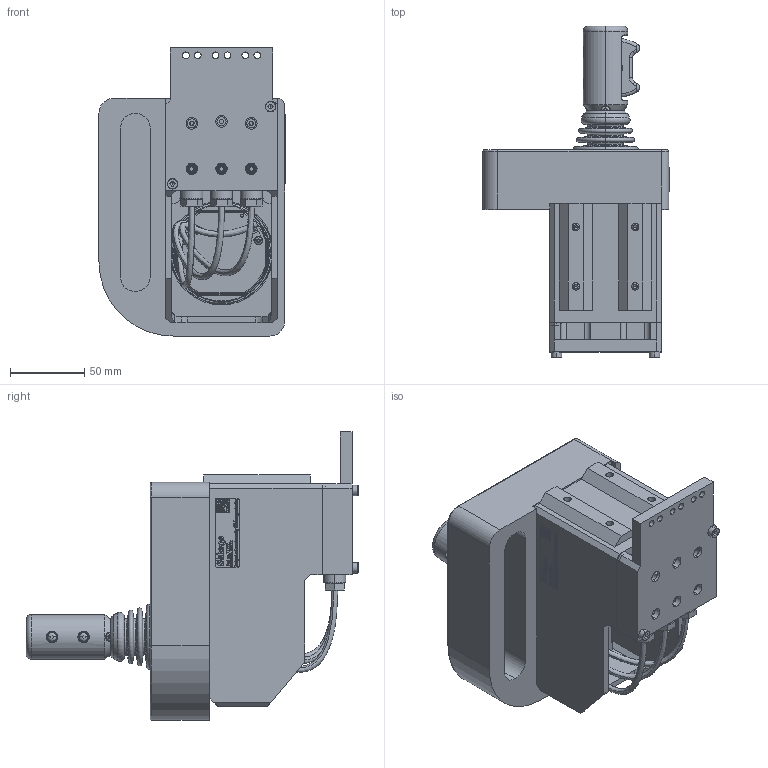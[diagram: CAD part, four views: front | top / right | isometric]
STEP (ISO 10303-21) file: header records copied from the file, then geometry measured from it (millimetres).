
FILE_DESCRIPTION (( 'STEP AP203' ), '1' );
FILE_NAME ('S-1333.STEP', '2018-05-28T09:25:29', ( '' ), ( '' ), 'SwSTEP 2.0', 'SolidWorks 2018', '' );
FILE_SCHEMA (( 'CONFIG_CONTROL_DESIGN' ));
Products named in the file (1): S-1333
Bounding box: 125.25 x 223.5 x 194 mm (x, y, z)
Volume: 1146983.9 mm3; surface area: 262318.7 mm2
Topology: 21 solids, 52 shells, 3694 faces, 11848 edges, 8698 vertices
Faces by surface type: plane 2151, cylinder 824, torus 338, cone 309, bspline 64, sphere 8
Entity records: 144925 total; most frequent: CARTESIAN_POINT 39943, ORIENTED_EDGE 23584, DIRECTION 19733, EDGE_CURVE 11792, VERTEX_POINT 8698, VECTOR 7097, LINE 7097, AXIS2_PLACEMENT_3D 6318
